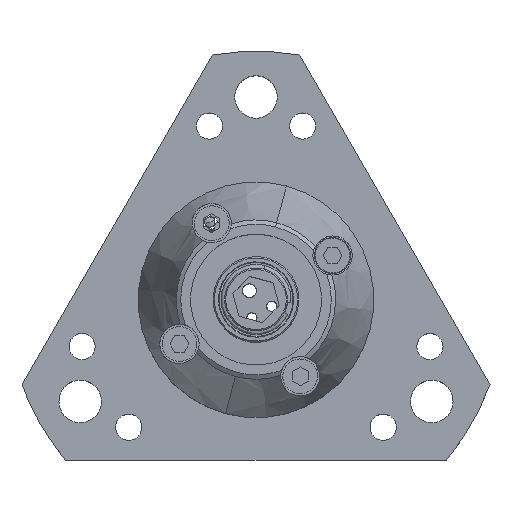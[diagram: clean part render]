
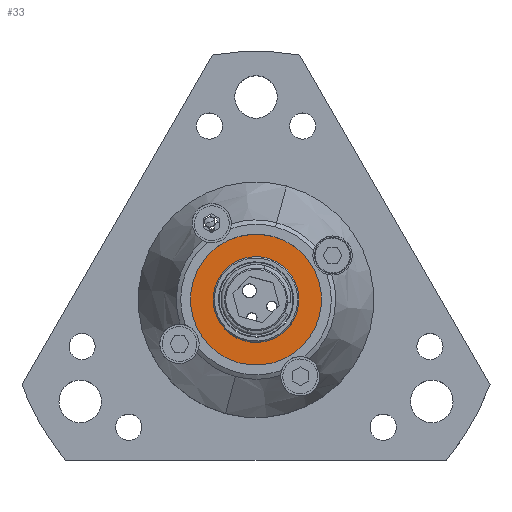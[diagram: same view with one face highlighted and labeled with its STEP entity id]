
A CAD part, top view. The second image highlights one B-rep face of the part: STEP entity #33.
In plain terms, the highlighted planar face has unit normal (0, 0, 1).
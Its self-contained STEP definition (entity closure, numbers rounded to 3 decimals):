
#33 = ADVANCED_FACE ( 'NONE', ( #5893, #1651 ), #3293, .T. ) ;
#299 = DIRECTION ( 'NONE',  ( -0.259, -0.966, 0. ) ) ;
#679 = CIRCLE ( 'NONE', #6839, 10. ) ;
#1651 = FACE_OUTER_BOUND ( 'NONE', #14328, .T. ) ;
#1974 = ORIENTED_EDGE ( 'NONE', *, *, #5587, .T. ) ;
#2149 = ORIENTED_EDGE ( 'NONE', *, *, #17143, .T. ) ;
#3144 = EDGE_CURVE ( 'NONE', #16014, #5915, #679, .T. ) ;
#3293 = PLANE ( 'NONE',  #16574 ) ;
#3813 = CARTESIAN_POINT ( 'NONE',  ( 0., 0., 49.95 ) ) ;
#4741 = AXIS2_PLACEMENT_3D ( 'NONE', #6147, #10780, #12030 ) ;
#4835 = DIRECTION ( 'NONE',  ( -0.259, -0.966, 0. ) ) ;
#5062 = CIRCLE ( 'NONE', #4741, 6. ) ;
#5587 = EDGE_CURVE ( 'NONE', #5915, #16014, #13673, .T. ) ;
#5893 = FACE_BOUND ( 'NONE', #7340, .T. ) ;
#5915 = VERTEX_POINT ( 'NONE', #9973 ) ;
#5992 = CARTESIAN_POINT ( 'NONE',  ( 0., 0., 49.95 ) ) ;
#6147 = CARTESIAN_POINT ( 'NONE',  ( 0., 0., 49.95 ) ) ;
#6839 = AXIS2_PLACEMENT_3D ( 'NONE', #5992, #13048, #4835 ) ;
#7340 = EDGE_LOOP ( 'NONE', ( #12550, #2149 ) ) ;
#7765 = AXIS2_PLACEMENT_3D ( 'NONE', #12915, #17340, #11569 ) ;
#7961 = DIRECTION ( 'NONE',  ( 0., 0., 1. ) ) ;
#8199 = VERTEX_POINT ( 'NONE', #16922 ) ;
#8970 = CARTESIAN_POINT ( 'NONE',  ( 0., 0., 49.95 ) ) ;
#9594 = DIRECTION ( 'NONE',  ( -0.259, -0.966, 0. ) ) ;
#9973 = CARTESIAN_POINT ( 'NONE',  ( -2.588, -9.659, 49.95 ) ) ;
#10780 = DIRECTION ( 'NONE',  ( 0., 0., -1. ) ) ;
#11569 = DIRECTION ( 'NONE',  ( 0.259, 0.966, 0. ) ) ;
#12030 = DIRECTION ( 'NONE',  ( 0.259, 0.966, 0. ) ) ;
#12550 = ORIENTED_EDGE ( 'NONE', *, *, #14154, .T. ) ;
#12765 = VERTEX_POINT ( 'NONE', #16022 ) ;
#12915 = CARTESIAN_POINT ( 'NONE',  ( 0., 0., 49.95 ) ) ;
#13048 = DIRECTION ( 'NONE',  ( 0., 0., 1. ) ) ;
#13673 = CIRCLE ( 'NONE', #16130, 10. ) ;
#14154 = EDGE_CURVE ( 'NONE', #8199, #12765, #14207, .T. ) ;
#14207 = CIRCLE ( 'NONE', #7765, 6. ) ;
#14328 = EDGE_LOOP ( 'NONE', ( #1974, #18178 ) ) ;
#14956 = DIRECTION ( 'NONE',  ( 0., 0., 1. ) ) ;
#16014 = VERTEX_POINT ( 'NONE', #18832 ) ;
#16022 = CARTESIAN_POINT ( 'NONE',  ( -1.553, -5.796, 49.95 ) ) ;
#16130 = AXIS2_PLACEMENT_3D ( 'NONE', #3813, #7961, #9594 ) ;
#16574 = AXIS2_PLACEMENT_3D ( 'NONE', #8970, #14956, #299 ) ;
#16922 = CARTESIAN_POINT ( 'NONE',  ( 1.553, 5.796, 49.95 ) ) ;
#17143 = EDGE_CURVE ( 'NONE', #12765, #8199, #5062, .T. ) ;
#17340 = DIRECTION ( 'NONE',  ( 0., 0., -1. ) ) ;
#18178 = ORIENTED_EDGE ( 'NONE', *, *, #3144, .T. ) ;
#18832 = CARTESIAN_POINT ( 'NONE',  ( 2.588, 9.659, 49.95 ) ) ;
